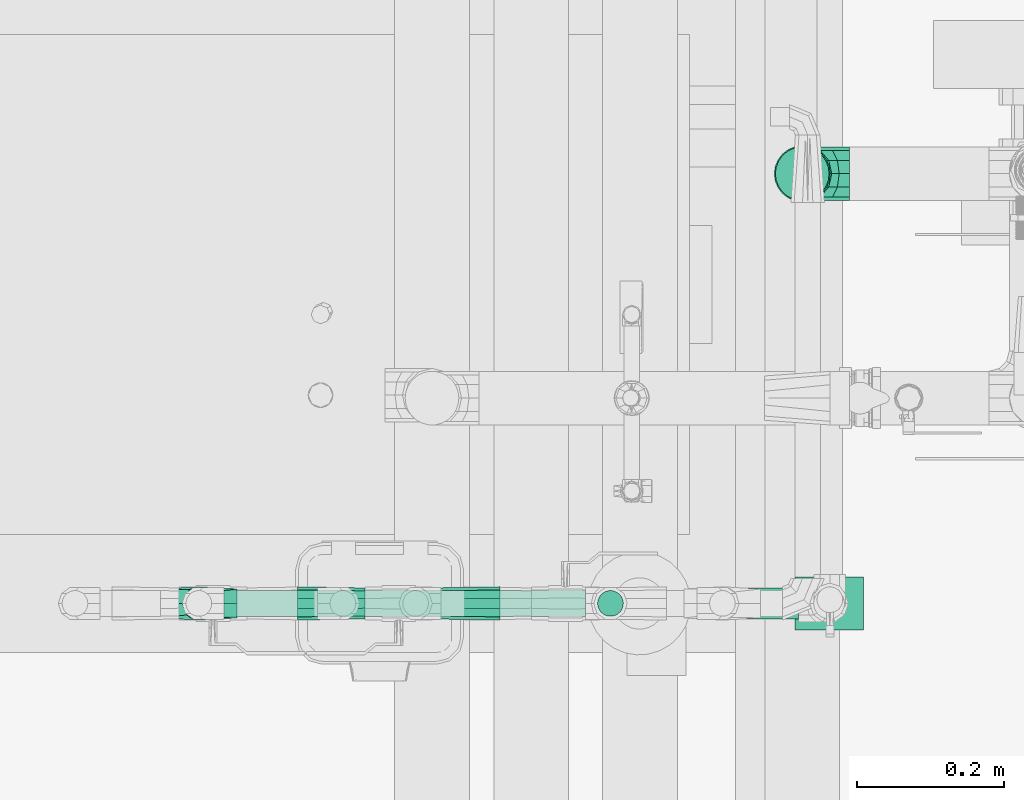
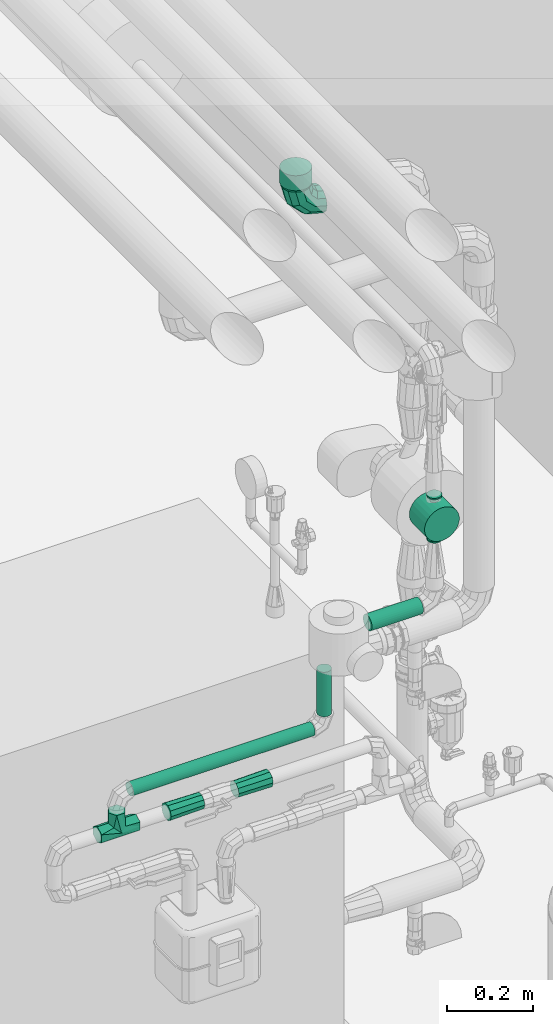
# One storey, part 18 of 43: 5 flow fittings, 4 flow segments, 1 flow controller.
"""IFC2X3 building model written with IfcOpenShell, lengths in millimetres."""

import ifcopenshell
import ifcopenshell.guid

model = None  # the IFC model being written
_history = None  # IfcOwnerHistory: only IFC2X3 demands one
_inside = {}  # id of a spatial element -> (the spatial element, [elements in it])
_under = {}  # id of a project, library or spatial element -> (it, [spatial elements below it])
_declared = {}  # id of a project -> (the project, [libraries it declares])
_typed = {}  # id of a type object -> (the type object, [elements of that type])
_made_of = {}  # id of a material, layer set ... -> (it, [elements and type objects made of it])


def new_model(schema):
    """Start an empty IFC model of exactly this schema.

    Asked for "IFC4X3", IfcOpenShell would pick the latest addendum, in which some entities
    have other attributes; the version numbers below select the first issue.
    IFC2X3 requires an IfcOwnerHistory on every rooted entity: one is made here for all.
    """
    global model, _history
    if schema == "IFC4X3":
        model = ifcopenshell.file(schema_version=(4, 3, 0, 0))
    else:
        model = ifcopenshell.file(schema=schema)
    _inside.clear()
    _under.clear()
    _declared.clear()
    _typed.clear()
    _made_of.clear()
    _history = None
    if model.schema == "IFC2X3":
        org = make("IfcOrganization", Name="unknown")
        user = make(
            "IfcPersonAndOrganization",
            ThePerson=make("IfcPerson", FamilyName="unknown"),
            TheOrganization=org,
        )
        app = make(
            "IfcApplication",
            ApplicationDeveloper=org,
            Version="unknown",
            ApplicationFullName="unknown",
            ApplicationIdentifier="unknown",
        )
        _history = make(
            "IfcOwnerHistory",
            OwningUser=user,
            OwningApplication=app,
            ChangeAction="ADDED",
            CreationDate=0,
        )
    return model


def make(cls, **values):
    """One entity of the class cls with the attributes given. An attribute that is None is left unset."""
    return model.create_entity(
        cls, **{name: value for name, value in values.items() if value is not None}
    )


def entity(cls, *values):
    """Any entity or typed value of the class cls, its attributes in the order of the schema. None: left unset."""
    e = model.create_entity(cls)
    for i, value in enumerate(values):
        if value is not None:
            e[i] = value
    return e


def rooted(cls, **values):
    """An entity with a GlobalId (a new one), such as an element, a storey or a relation."""
    return make(cls, GlobalId=ifcopenshell.guid.new(), OwnerHistory=_history, **values)


def si_unit(unit_type, name, prefix=None):
    """IfcSIUnit, for example si_unit("LENGTHUNIT", "METRE", prefix="MILLI")."""
    return make("IfcSIUnit", UnitType=unit_type, Prefix=prefix, Name=name)


def converted_unit(unit_type, name, factor, base, dimensions=None, offset=None):
    """IfcConversionBasedUnit, such as the inch: factor (a typed value) times the base unit."""
    return make(
        "IfcConversionBasedUnit"
        if offset is None
        else "IfcConversionBasedUnitWithOffset",
        ConversionOffset=offset,
        Dimensions=None
        if dimensions is None
        else entity("IfcDimensionalExponents", *dimensions),
        UnitType=unit_type,
        Name=name,
        ConversionFactor=make(
            "IfcMeasureWithUnit", ValueComponent=factor, UnitComponent=base
        ),
    )


def derived_unit(unit_type, elements):
    """IfcDerivedUnit: a product of units, each with its exponent."""
    return make(
        "IfcDerivedUnit",
        Elements=[
            make("IfcDerivedUnitElement", Unit=unit, Exponent=power)
            for unit, power in elements
        ],
        UnitType=unit_type,
    )


def assignment(units):
    """IfcUnitAssignment: the units of a project."""
    return None if units is None else make("IfcUnitAssignment", Units=units)


def point(xyz):
    """IfcCartesianPoint."""
    return None if xyz is None else make("IfcCartesianPoint", Coordinates=xyz)


def direction(xyz):
    """IfcDirection."""
    return None if xyz is None else make("IfcDirection", DirectionRatios=xyz)


def frame(location, z_axis=None, x_axis=None):
    """IfcAxis2Placement3D, a coordinate frame: its origin and axes. An axis left out is left unset."""
    return make(
        "IfcAxis2Placement3D",
        Location=point(location),
        Axis=direction(z_axis),
        RefDirection=direction(x_axis),
    )


def frame_2d(location, x_axis=None):
    """IfcAxis2Placement2D, a coordinate frame in the plane: its origin and x axis."""
    return make(
        "IfcAxis2Placement2D", Location=point(location), RefDirection=direction(x_axis)
    )


def origin():
    """The frame at (0, 0, 0) with its axes left unset."""
    return frame((0.0, 0.0, 0.0))


def origin_2d_with_axis():
    """The frame at (0, 0) in the plane with the x axis (1, 0) written out."""
    return frame_2d((0.0, 0.0), x_axis=(1.0, 0.0))


def place(relative_to, where):
    """IfcLocalPlacement: puts the frame where relative to a parent placement (None: the world)."""
    return make(
        "IfcLocalPlacement", PlacementRelTo=relative_to, RelativePlacement=where
    )


def context(
    kind, dimensions, precision=None, world=None, true_north=None, identifier=None
):
    """IfcGeometricRepresentationContext, for example the 3D "Model" context."""
    return make(
        "IfcGeometricRepresentationContext",
        ContextIdentifier=identifier,
        ContextType=kind,
        CoordinateSpaceDimension=dimensions,
        Precision=precision,
        WorldCoordinateSystem=world,
        TrueNorth=true_north,
    )


def subcontext(parent, identifier, kind, view, scale=None):
    """IfcGeometricRepresentationSubContext, for example "Body" below "Model"."""
    return make(
        "IfcGeometricRepresentationSubContext",
        ContextIdentifier=identifier,
        ContextType=kind,
        ParentContext=parent,
        TargetScale=scale,
        TargetView=view,
    )


def project(units=None, contexts=None):
    """IfcProject with its units and contexts."""
    return rooted(
        "IfcProject",
        Name="project",
        RepresentationContexts=contexts,
        UnitsInContext=assignment(units),
    )


def spatial(cls, under=None, at=None, **own):
    """A site, building, storey or space (cls), placed at a placement, below another one or the project."""
    s = rooted(cls, ObjectPlacement=at, **own)
    if under is not None:
        _under.setdefault(under.id(), (under, []))[1].append(s)
    return s


def profile(cls, at=None, kind="AREA", **sizes):
    """A parametric profile (cls). Its sizes go by their IFC names, for example OverallWidth=200.0."""
    return make(cls, ProfileType=kind, Position=at, **sizes)


def circle(**sizes):
    """IfcCircleProfileDef."""
    return profile("IfcCircleProfileDef", **sizes)


def hollow_circle(**sizes):
    """IfcCircleHollowProfileDef."""
    return profile("IfcCircleHollowProfileDef", **sizes)


def extrude(swept, where, along, depth):
    """IfcExtrudedAreaSolid: the profile swept, set in the frame where, extruded along a direction by depth."""
    return make(
        "IfcExtrudedAreaSolid",
        SweptArea=swept,
        Position=where,
        ExtrudedDirection=direction(along),
        Depth=depth,
    )


def faces_of(points, faces, orient=None, outer=None):
    """IfcFace entities. A face is a list of loops; a loop is a list of indices into points, from 0.

    orient and outer hold one flag for each loop. By default every Orientation is true, the
    first loop of a face is its IfcFaceOuterBound and the others are IfcFaceBound.
    """
    made = []
    for i, loops in enumerate(faces):
        bounds = []
        for j, loop in enumerate(loops):
            is_outer = j == 0 if outer is None else outer[i][j]
            bounds.append(
                make(
                    "IfcFaceOuterBound" if is_outer else "IfcFaceBound",
                    Bound=make("IfcPolyLoop", Polygon=[points[k] for k in loop]),
                    Orientation=True if orient is None else orient[i][j],
                )
            )
        made.append(make("IfcFace", Bounds=bounds))
    return made


def faceted_brep(points, faces, orient=None, outer=None, voids=None):
    """IfcFacetedBrep: a solid bounded by flat faces; with voids (closed shells), ...WithVoids."""
    shared = [point(p) for p in points]
    hull = make("IfcClosedShell", CfsFaces=faces_of(shared, faces, orient, outer))
    if voids is None:
        return make("IfcFacetedBrep", Outer=hull)
    return make(
        "IfcFacetedBrepWithVoids",
        Outer=hull,
        Voids=[
            make(cls, CfsFaces=faces_of(shared, fs, o, b)) for cls, fs, o, b in voids
        ],
    )


def shape(context_of_items, identifier, shape_type, items):
    """IfcShapeRepresentation: the items that make up one representation, for example the "Body"."""
    return make(
        "IfcShapeRepresentation",
        ContextOfItems=context_of_items,
        RepresentationIdentifier=identifier,
        RepresentationType=shape_type,
        Items=items,
    )


def source(mapping_origin, context_of_items, identifier, shape_type, items):
    """IfcRepresentationMap: a shape defined once, which mapped items show again and again."""
    return make(
        "IfcRepresentationMap",
        MappingOrigin=mapping_origin,
        MappedRepresentation=shape(context_of_items, identifier, shape_type, items),
    )


def transform(
    local_origin,
    x_axis=None,
    y_axis=None,
    z_axis=None,
    scale=None,
    scale2=None,
    scale3=None,
    uniform=True,
):
    """IfcCartesianTransformationOperator3D, or its non-uniform kind. x_axis, y_axis, z_axis: its Axis1, 2, 3."""
    if uniform:
        return make(
            "IfcCartesianTransformationOperator3D",
            Axis1=direction(x_axis),
            Axis2=direction(y_axis),
            LocalOrigin=point(local_origin),
            Scale=scale,
            Axis3=direction(z_axis),
        )
    return make(
        "IfcCartesianTransformationOperator3DnonUniform",
        Axis1=direction(x_axis),
        Axis2=direction(y_axis),
        LocalOrigin=point(local_origin),
        Scale=scale,
        Axis3=direction(z_axis),
        Scale2=scale2,
        Scale3=scale3,
    )


def mapped(mapping_source, mapping_target):
    """IfcMappedItem: shows the shape of a source again, moved by a transform."""
    return make(
        "IfcMappedItem", MappingSource=mapping_source, MappingTarget=mapping_target
    )


def material(Name=None, Category=None):
    """IfcMaterial."""
    return make("IfcMaterial", Name=Name, Category=Category)


def material_list(materials):
    """IfcMaterialList."""
    return make("IfcMaterialList", Materials=materials)


def made_of(thing, what):
    """Note that an element or type object is made of a material, layer set ...; save() writes the relation."""
    if what is not None:
        _made_of.setdefault(what.id(), (what, []))[1].append(thing)
    return thing


def type_object(cls, material=None, **own):
    """A type object (cls), such as IfcWallType, which elements share."""
    return made_of(rooted(cls, **own), material)


def type_shapes(of_type, sources):
    """Give a type object the sources (RepresentationMaps) that its elements show as mapped items."""
    of_type.RepresentationMaps = sources


def element(
    cls,
    number,
    at=None,
    inside=None,
    cuts=None,
    type_object=None,
    material=None,
    context=None,
    identifier="Body",
    shape_type=None,
    held_by="IfcProductDefinitionShape",
    body=None,
    shapes=None,
    **own,
):
    """One element of the class cls, such as IfcWall. Its Tag is "e" and its number.

    at: its placement. inside: the storey or other place that contains it. cuts: it is an
    opening in that element (IfcRelVoidsElement). A single representation is given by context,
    identifier, shape_type and body (its items); several are given by shapes. held_by: the class
    of the entity that holds the representations. save() writes the other relations.
    """
    e = rooted(cls, Tag="e%d" % number, ObjectPlacement=at, **own)
    if body is not None:
        shapes = [shape(context, identifier, shape_type, body)]
    if shapes is not None:
        e.Representation = make(held_by, Representations=shapes)
    if inside is not None:
        _inside.setdefault(inside.id(), (inside, []))[1].append(e)
    if cuts is not None:
        rooted(
            "IfcRelVoidsElement", RelatingBuildingElement=cuts, RelatedOpeningElement=e
        )
    if type_object is not None:
        _typed.setdefault(type_object.id(), (type_object, []))[1].append(e)
    return made_of(e, material)


def aggregate(whole, parts):
    """IfcRelAggregates: a whole, such as a stair, and the parts it consists of."""
    return rooted("IfcRelAggregates", RelatingObject=whole, RelatedObjects=parts)


def save(model, path):
    """Write the relations noted so far, then the file.

    IfcRelAggregates (storeys below a building ...), IfcRelContainedInSpatialStructure (elements
    in a storey), IfcRelDefinesByType, IfcRelAssociatesMaterial and IfcRelDeclares: one each for
    every whole, place, type object, material and project.
    """
    for whole, parts in _under.values():
        aggregate(whole, parts)
    for where, things in _inside.values():
        rooted(
            "IfcRelContainedInSpatialStructure",
            RelatedElements=things,
            RelatingStructure=where,
        )
    for kind, things in _typed.values():
        rooted("IfcRelDefinesByType", RelatedObjects=things, RelatingType=kind)
    for what, things in _made_of.values():
        rooted("IfcRelAssociatesMaterial", RelatedObjects=things, RelatingMaterial=what)
    for by, libraries in _declared.values():
        rooted("IfcRelDeclares", RelatingContext=by, RelatedDefinitions=libraries)
    model.write(path)


model = new_model("IFC2X3")

# Units and contexts
model_context = context("Model", 3, precision=0.01, world=origin(), true_north=direction((6.123031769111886e-17, 1.0)))
body_context = subcontext(model_context, "Body", "Model", "MODEL_VIEW")
ifc_project = project(units=[si_unit("LENGTHUNIT", "METRE", prefix="MILLI"), si_unit("AREAUNIT", "SQUARE_METRE"), si_unit("VOLUMEUNIT", "CUBIC_METRE"), converted_unit("PLANEANGLEUNIT", "DEGREE", entity("IfcRatioMeasure", 0.017453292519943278), si_unit("PLANEANGLEUNIT", "RADIAN"), dimensions=[0, 0, 0, 0, 0, 0, 0]), si_unit("MASSUNIT", "GRAM", prefix="KILO"), derived_unit("MASSDENSITYUNIT", [(si_unit("MASSUNIT", "GRAM", prefix="KILO"), 1), (si_unit("LENGTHUNIT", "METRE"), -3)]), derived_unit("MOMENTOFINERTIAUNIT", [(si_unit("LENGTHUNIT", "METRE"), 4)]), si_unit("TIMEUNIT", "SECOND"), si_unit("FREQUENCYUNIT", "HERTZ"), si_unit("THERMODYNAMICTEMPERATUREUNIT", "DEGREE_CELSIUS"), derived_unit("THERMALTRANSMITTANCEUNIT", [(si_unit("MASSUNIT", "GRAM", prefix="KILO"), 1), (si_unit("THERMODYNAMICTEMPERATUREUNIT", "KELVIN"), -1), (si_unit("TIMEUNIT", "SECOND"), -3)]), derived_unit("VOLUMETRICFLOWRATEUNIT", [(si_unit("LENGTHUNIT", "METRE"), 3), (si_unit("TIMEUNIT", "SECOND"), -1)]), derived_unit("MASSFLOWRATEUNIT", [(si_unit("MASSUNIT", "GRAM", prefix="KILO"), 1), (si_unit("TIMEUNIT", "SECOND"), -1)]), derived_unit("ROTATIONALFREQUENCYUNIT", [(si_unit("TIMEUNIT", "SECOND"), -1)]), si_unit("ELECTRICCURRENTUNIT", "AMPERE"), si_unit("ELECTRICVOLTAGEUNIT", "VOLT"), si_unit("POWERUNIT", "WATT"), si_unit("FORCEUNIT", "NEWTON", prefix="KILO"), si_unit("ILLUMINANCEUNIT", "LUX"), si_unit("LUMINOUSFLUXUNIT", "LUMEN"), si_unit("LUMINOUSINTENSITYUNIT", "CANDELA"), derived_unit("USERDEFINED", [(si_unit("MASSUNIT", "GRAM", prefix="KILO"), -1), (si_unit("LENGTHUNIT", "METRE"), -2), (si_unit("TIMEUNIT", "SECOND"), 3), (si_unit("LUMINOUSFLUXUNIT", "LUMEN"), 1)]), derived_unit("SOUNDPOWERUNIT", [(si_unit("MASSUNIT", "GRAM", prefix="KILO"), 1), (si_unit("LENGTHUNIT", "METRE"), 2), (si_unit("TIMEUNIT", "SECOND"), -3)]), derived_unit("SOUNDPRESSUREUNIT", [(si_unit("MASSUNIT", "GRAM", prefix="KILO"), 1), (si_unit("LENGTHUNIT", "METRE"), -1), (si_unit("TIMEUNIT", "SECOND"), -2)]), derived_unit("LINEARVELOCITYUNIT", [(si_unit("LENGTHUNIT", "METRE"), 1), (si_unit("TIMEUNIT", "SECOND"), -1)]), si_unit("PRESSUREUNIT", "PASCAL"), derived_unit("USERDEFINED", [(si_unit("LENGTHUNIT", "METRE"), -2), (si_unit("MASSUNIT", "GRAM", prefix="KILO"), 1), (si_unit("TIMEUNIT", "SECOND"), -2)]), derived_unit("LINEARFORCEUNIT", [(si_unit("MASSUNIT", "GRAM", prefix="KILO"), 1), (si_unit("LENGTHUNIT", "METRE"), 1), (si_unit("TIMEUNIT", "SECOND"), -2), (si_unit("LENGTHUNIT", "METRE"), -1)]), derived_unit("PLANARFORCEUNIT", [(si_unit("MASSUNIT", "GRAM", prefix="KILO"), 1), (si_unit("LENGTHUNIT", "METRE"), 1), (si_unit("TIMEUNIT", "SECOND"), -2), (si_unit("LENGTHUNIT", "METRE"), -2)])], contexts=[model_context])

# Site, building, storey
site_placement = place(None, origin())
site = spatial("IfcSite", under=ifc_project, at=site_placement, Name="Default", CompositionType="ELEMENT")
building_placement = place(site_placement, origin())
building = spatial("IfcBuilding", under=site, at=building_placement, CompositionType="ELEMENT")
storey_placement = place(building_placement, frame((0.0, 0.0, 270.0)))
storey = spatial("IfcBuildingStorey", under=building, at=storey_placement, Name="Niveau 0", CompositionType="ELEMENT", Elevation=270.0)

# Flow segment
pipe_segment_type_1 = type_object("IfcPipeSegmentType", Name="Canalisation:tube acier", PredefinedType="NOTDEFINED")
flow_segment_1_placement = place(storey_placement, origin())
element("IfcFlowSegment", 1, at=flow_segment_1_placement, inside=storey, type_object=pipe_segment_type_1, Name="Canalisation:tube acier", ObjectType="Canalisation:tube acier", context=body_context, shape_type="SweptSolid", body=[
    extrude(circle(Radius=36.5125, at=origin_2d_with_axis()), frame((-2000.0, -9310.0, 2458.601734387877)), (0.0, 0.0, 1.0), 5.15198411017),
])

# Flow fittings
ifc_material_1 = material(Name="<Unnamed>")
ifc_material_list_1 = material_list([ifc_material_1, ifc_material_1])
pipe_fitting_type_1 = type_object("IfcPipeFittingType", Name="Coude - Générique:Standard", PredefinedType="NOTDEFINED", material=ifc_material_list_1)
shared_shape_1 = source(origin(), body_context, "Body", "Brep", [
    faceted_brep([(23.03555308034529, 13.749999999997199, 0.0), (18.800625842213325, 16.19503638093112, -18.250000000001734), (31.60992723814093, 64.0, -18.250000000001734), (36.50000000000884, 64.0, 0.0), (7.230589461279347, 22.874999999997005, -31.609927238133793), (18.250000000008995, 64.0, -31.609927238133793), (-8.574374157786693, 32.0, -36.50000000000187), (0.0, 64.0, -36.50000000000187), (-24.379337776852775, 41.12499999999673, -31.609927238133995), (-18.249999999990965, 64.0, -31.609927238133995), (-35.94937415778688, 47.8049636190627, -18.250000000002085), (-31.609927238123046, 64.0, -18.250000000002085), (-40.184301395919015, 50.24999999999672, 0.0), (-36.49999999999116, 64.0, 0.0), (-35.949374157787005, 47.80496361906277, 18.249999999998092), (-31.609927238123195, 64.0, 18.249999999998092), (-24.37933777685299, 41.12499999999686, 31.609927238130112), (-18.249999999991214, 64.0, 31.609927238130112), (-8.574374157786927, 32.0, 36.49999999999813), (0.0, 64.0, 36.49999999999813), (7.2305894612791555, 22.87499999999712, 31.609927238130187), (18.250000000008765, 64.0, 31.609927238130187), (18.80062584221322, 16.195036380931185, 18.24999999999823), (31.6099272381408, 64.0, 18.24999999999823), (-13.749999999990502, -23.035553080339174, 0.0), (-16.1950363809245, -18.80062584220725, -18.250000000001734), (-22.874999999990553, -7.230589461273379, -31.609927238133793), (-32.0, 8.574374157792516, -36.50000000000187), (-41.124999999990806, 24.379337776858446, -31.609927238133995), (-47.804963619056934, 35.94937415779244, -18.250000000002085), (-50.24999999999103, 40.18430139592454, 0.0), (-47.80496361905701, 35.94937415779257, 18.249999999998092), (-41.12499999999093, 24.37933777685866, 31.609927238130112), (-32.0, 8.574374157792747, 36.49999999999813), (-22.874999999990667, -7.23058946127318, 31.609927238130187), (-16.195036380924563, -18.800625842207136, 18.24999999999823), (-64.0, -36.50000000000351, 0.0), (-64.0, -31.609927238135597, -18.250000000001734), (-64.0, -18.250000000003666, -31.609927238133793), (-64.0, 0.0, -36.50000000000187), (-64.0, 18.249999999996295, -31.609927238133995), (-64.0, 31.60992723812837, -18.250000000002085), (-64.0, 36.49999999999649, 0.0), (-64.0, 31.60992723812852, 18.249999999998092), (-64.0, 18.249999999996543, 31.609927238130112), (-64.0, 0.0, 36.49999999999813), (-64.0, -18.25000000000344, 31.609927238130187), (-64.0, -31.60992723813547, 18.24999999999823)], [[[0, 1, 2, 3]], [[1, 4, 5, 2]], [[4, 6, 7, 5]], [[6, 8, 9, 7]], [[8, 10, 11, 9]], [[10, 12, 13, 11]], [[12, 14, 15, 13]], [[14, 16, 17, 15]], [[16, 18, 19, 17]], [[18, 20, 21, 19]], [[20, 22, 23, 21]], [[22, 0, 3, 23]], [[24, 25, 1, 0]], [[25, 26, 4, 1]], [[26, 27, 6, 4]], [[27, 28, 8, 6]], [[28, 29, 10, 8]], [[29, 30, 12, 10]], [[30, 31, 14, 12]], [[31, 32, 16, 14]], [[32, 33, 18, 16]], [[33, 34, 20, 18]], [[34, 35, 22, 20]], [[35, 24, 0, 22]], [[36, 37, 25, 24]], [[37, 38, 26, 25]], [[38, 39, 27, 26]], [[39, 40, 28, 27]], [[40, 41, 29, 28]], [[41, 42, 30, 29]], [[42, 43, 31, 30]], [[43, 44, 32, 31]], [[44, 45, 33, 32]], [[45, 46, 34, 33]], [[46, 47, 35, 34]], [[47, 36, 24, 35]], [[3, 2, 5, 7, 9, 11, 13, 15, 17, 19, 21, 23]], [[47, 46, 45, 44, 43, 42, 41, 40, 39, 38, 37, 36]]]),
])
type_shapes(pipe_fitting_type_1, [shared_shape_1])
flow_fitting_1_placement = place(storey_placement, frame((-2000.0, -9310.0, 2394.601734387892), z_axis=(0.0, -1.0, 0.0), x_axis=(0.0, 0.0, -1.0)))
element("IfcFlowFitting", 2, at=flow_fitting_1_placement, inside=storey, type_object=pipe_fitting_type_1, material=ifc_material_1, Name="Coude - Générique:Standard", ObjectType="Coude - Générique:Standard", context=body_context, shape_type="MappedRepresentation", body=[
    mapped(shared_shape_1, transform((0.0, 0.0, 0.0), scale=1.0)),
])
pipe_fitting_type_2 = type_object("IfcPipeFittingType", Name="Piquage Acier Noir droit:Longueur = 25", PredefinedType="NOTDEFINED", material=ifc_material_1)
shared_shape_2 = source(origin(), body_context, "Body", "Brep", [
    faceted_brep([(-17.85256265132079, -26.90541302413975, -26.905413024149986), (-17.852562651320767, -32.9522666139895, -19.02500000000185), (-17.852562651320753, -36.753477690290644, -9.848064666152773), (-17.85256265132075, -38.0499999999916, 0.0), (-17.852562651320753, -36.75347769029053, 9.848064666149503), (-17.852562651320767, -32.95226661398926, 19.02499999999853), (-17.85256265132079, -26.905413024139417, 26.905413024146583), (-17.852562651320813, -19.02499999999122, 32.952266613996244), (-17.852562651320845, -9.848064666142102, 36.75347769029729), (-17.852562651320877, 0.0, 38.04999999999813), (-17.852562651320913, 9.848064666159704, 36.753477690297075), (-17.85256265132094, 19.025000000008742, 32.952266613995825), (-17.85256265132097, 26.90541302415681, 26.905413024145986), (-17.85256265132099, 32.95226661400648, 19.0249999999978), (-17.852562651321, 36.75347769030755, 9.84806466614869), (-17.852562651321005, 38.0500000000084, 0.0), (-17.852562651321, 36.75347769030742, -9.848064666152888), (-17.85256265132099, 32.95226661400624, -19.025000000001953), (-17.85256265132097, 26.905413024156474, -26.905413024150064), (-17.85256265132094, 19.025000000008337, -32.952266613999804), (-17.852562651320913, 9.848064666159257, -36.75347769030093), (-17.852562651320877, 0.0, -38.05000000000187), (-17.852562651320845, -9.848064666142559, -36.753477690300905), (-17.852562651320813, -19.024999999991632, -32.95226661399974), (0.0, 38.05000000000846, 0.0), (0.0, 36.753477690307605, 9.84806466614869), (25.0, 36.75347769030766, 9.84806466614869), (25.0, 38.05000000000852, 0.0), (0.0, 32.95226661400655, 19.0249999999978), (25.0, 32.9522666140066, 19.0249999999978), (0.0, 19.025000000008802, 32.952266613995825), (25.0, 19.025000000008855, 32.952266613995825), (25.0, 26.905413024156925, 26.905413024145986), (0.0, 26.905413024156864, 26.905413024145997), (0.0, 9.848064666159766, 36.753477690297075), (25.0, 9.84806466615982, 36.753477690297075), (0.0, 0.0, 38.04999999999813), (25.0, 0.0, 38.04999999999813), (0.0, -9.84806466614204, 36.75347769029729), (0.0, -19.024999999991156, 32.952266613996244), (25.0, -19.024999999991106, 32.952266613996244), (25.0, -9.848064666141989, 36.75347769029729), (0.0, -26.905413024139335, 26.905413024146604), (25.0, -26.905413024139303, 26.905413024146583), (0.0, -36.75347769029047, 9.848064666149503), (25.0, -36.75347769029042, 9.848064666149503), (25.0, -32.952266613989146, 19.02499999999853), (0.0, -32.9522666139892, 19.02499999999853), (0.0, -38.04999999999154, 0.0), (25.0, -38.049999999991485, 0.0), (0.0, -36.75347769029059, -9.84806466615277), (25.0, -36.75347769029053, -9.848064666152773), (0.0, -32.952266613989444, -19.025000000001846), (25.0, -32.95226661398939, -19.02500000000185), (0.0, -19.024999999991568, -32.95226661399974), (25.0, -19.02499999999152, -32.95226661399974), (25.0, -26.905413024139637, -26.905413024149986), (0.0, -26.905413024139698, -26.90541302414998), (0.0, -9.848064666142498, -36.753477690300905), (25.0, -9.848064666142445, -36.753477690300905), (0.0, 0.0, -38.05000000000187), (25.0, 0.0, -38.05000000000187), (0.0, 9.848064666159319, -36.75347769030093), (0.0, 19.025000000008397, -32.952266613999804), (25.0, 19.02500000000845, -32.952266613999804), (25.0, 9.84806466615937, -36.75347769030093), (0.0, 26.905413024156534, -26.905413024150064), (25.0, 26.905413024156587, -26.905413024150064), (0.0, 36.75347769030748, -9.848064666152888), (25.0, 36.753477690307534, -9.848064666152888), (25.0, 32.95226661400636, -19.025000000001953), (0.0, 32.952266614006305, -19.025000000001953)], [[[0, 1, 2, 3, 4, 5, 6, 7, 8, 9, 10, 11, 12, 13, 14, 15, 16, 17, 18, 19, 20, 21, 22, 23]], [[24, 15, 14, 25, 26, 27]], [[25, 14, 13, 28, 29, 26]], [[30, 31, 32, 33, 12, 11]], [[13, 12, 33, 32, 29, 28]], [[34, 35, 31, 30, 11, 10]], [[9, 36, 37, 35, 34, 10]], [[38, 8, 7, 39, 40, 41]], [[39, 7, 6, 42, 43, 40]], [[44, 45, 46, 47, 5, 4]], [[6, 5, 47, 46, 43, 42]], [[48, 49, 45, 44, 4, 3]], [[38, 41, 37, 36, 9, 8]], [[48, 3, 2, 50, 51, 49]], [[50, 2, 1, 52, 53, 51]], [[54, 55, 56, 57, 0, 23]], [[1, 0, 57, 56, 53, 52]], [[58, 59, 55, 54, 23, 22]], [[21, 60, 61, 59, 58, 22]], [[62, 20, 19, 63, 64, 65]], [[63, 19, 18, 66, 67, 64]], [[68, 69, 70, 71, 17, 16]], [[18, 17, 71, 70, 67, 66]], [[24, 27, 69, 68, 16, 15]], [[62, 65, 61, 60, 21, 20]], [[59, 61, 65, 64, 67, 70, 69, 27, 26, 29, 32, 31, 35, 37, 41, 40, 43, 46, 45, 49, 51, 53, 56, 55]]]),
])
type_shapes(pipe_fitting_type_2, [shared_shape_2])
flow_fitting_2_placement = place(storey_placement, frame((-2000.0, -9310.0, 2488.75371849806), z_axis=(0.0, -1.0, 0.0), x_axis=(0.0, 0.0, -1.0)))
element("IfcFlowFitting", 3, at=flow_fitting_2_placement, inside=storey, type_object=pipe_fitting_type_2, material=ifc_material_1, Name="Piquage Acier Noir droit:Longueur = 25", ObjectType="Piquage Acier Noir droit:Longueur = 25", context=body_context, shape_type="MappedRepresentation", body=[
    mapped(shared_shape_2, transform((0.0, 0.0, 0.0), scale=1.0)),
])

# Flow segments
pipe_segment_type_2 = type_object("IfcPipeSegmentType", Name="Canalisation:tuyau cuivre", PredefinedType="NOTDEFINED")
flow_segment_2_placement = place(storey_placement, origin())
element("IfcFlowSegment", 4, at=flow_segment_2_placement, inside=storey, type_object=pipe_segment_type_2, Name="Canalisation:tuyau cuivre", ObjectType="Canalisation:tuyau cuivre", context=body_context, shape_type="SweptSolid", body=[
    extrude(circle(Radius=21.0, at=frame_2d((2.626955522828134e-42, 2.707167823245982e-13), x_axis=(1.0, 0.0))), frame((-2143.4875000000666, -9894.089173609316, 1610.479787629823), z_axis=(1.0, 0.0, 0.0), x_axis=(0.0, 1.0, 0.0)), (0.0, 0.0, 1.0), 138.64828124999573),
])
flow_segment_3_placement = place(storey_placement, origin())
element("IfcFlowSegment", 5, at=flow_segment_3_placement, inside=storey, type_object=pipe_segment_type_2, Name="Canalisation:tuyau cuivre", ObjectType="Canalisation:tuyau cuivre", context=body_context, shape_type="SweptSolid", body=[
    extrude(circle(Radius=17.5, at=origin_2d_with_axis()), frame((-2785.9681597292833, -9894.089173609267, 1360.5000000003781), z_axis=(1.0, 0.0, 0.0), x_axis=(0.0, -1.0, 0.0)), (0.0, 0.0, 1.0), 491.0764289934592),
])
flow_segment_4_placement = place(storey_placement, origin())
element("IfcFlowSegment", 6, at=flow_segment_4_placement, inside=storey, type_object=pipe_segment_type_2, Name="Canalisation:tuyau cuivre", ObjectType="Canalisation:tuyau cuivre", context=body_context, shape_type="SweptSolid", body=[
    extrude(circle(Radius=17.5, at=origin_2d_with_axis()), frame((-2260.6800119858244, -9894.089173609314, 1394.7117187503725), z_axis=(0.0, 0.0, 1.0), x_axis=(-1.0, 0.0, 0.0)), (0.0, 0.0, 1.0), 126.89768763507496),
])

# Flow fittings
pipe_fitting_type_3 = type_object("IfcPipeFittingType", Name="Transformation - Générique:Standard", PredefinedType="NOTDEFINED", material=ifc_material_1)
shared_shape_3 = source(origin(), body_context, "Body", "Brep", [
    faceted_brep([(91.44531250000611, 17.057301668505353, -12.39285507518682), (91.44531250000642, 19.070643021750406, -6.196427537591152), (91.44531250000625, 21.083984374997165, 0.0), (91.44531250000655, 19.07064302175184, 6.196427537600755), (91.44531250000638, 17.05730166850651, 12.392855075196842), (91.4453125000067, 11.786305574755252, 16.222457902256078), (91.44531250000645, 6.515309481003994, 20.052060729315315), (91.44531250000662, 0.0, 20.052060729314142), (91.44531250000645, -6.51530948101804, 20.052060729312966), (91.44531250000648, -11.786305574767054, 16.222457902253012), (91.44531250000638, -17.057301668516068, 12.392855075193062), (91.44531250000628, -19.070643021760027, 6.196427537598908), (91.44531250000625, -21.083984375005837, 0.0), (91.44531250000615, -19.070643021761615, -6.196427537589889), (91.44531250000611, -17.057301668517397, -12.392855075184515), (91.44531250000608, -11.786305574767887, -16.22245790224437), (91.44531250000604, -6.515309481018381, -20.05206072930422), (91.44531250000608, 0.0, -20.052060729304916), (91.44531250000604, 6.5153094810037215, -20.052060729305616), (91.44531250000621, 11.78630557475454, -16.222457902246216), (0.0, 22.708984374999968, 0.0), (0.0, 20.556774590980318, -6.623820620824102), (0.0, 18.371954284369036, -13.348006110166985), (0.0, 12.694708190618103, -17.47276683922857), (0.0, 7.017462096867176, -21.59752756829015), (0.0, 0.0, -21.597527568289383), (0.0, -7.017462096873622, -21.59752756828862), (0.0, -12.694708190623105, -17.47276683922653), (0.0, -18.37195428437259, -13.348006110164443), (0.0, -20.556774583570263, -6.623820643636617), (0.0, -22.708984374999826, 0.0), (0.0, -20.556774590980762, 6.623820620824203), (0.0, -18.371954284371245, 13.348006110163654), (0.0, -12.694708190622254, 17.47276683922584), (0.0, -7.017462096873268, 21.597527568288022), (0.0, 0.0, 21.597527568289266), (0.0, 7.017462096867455, 21.597527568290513), (0.0, 12.694708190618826, 17.472766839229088), (0.0, 18.371954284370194, 13.348006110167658), (0.0, 20.556774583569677, 6.623820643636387)], [[[0, 1, 2, 3, 4, 5, 6, 7, 8, 9, 10, 11, 12, 13, 14, 15, 16, 17, 18, 19]], [[20, 21, 22, 23, 24, 25, 26, 27, 28, 29, 30, 31, 32, 33, 34, 35, 36, 37, 38, 39]], [[22, 21, 20, 2, 1, 0]], [[28, 14, 13, 12, 30, 29]], [[0, 19, 18, 24, 23, 22]], [[26, 25, 24, 18, 17, 16]], [[16, 15, 14, 28, 27, 26]], [[32, 31, 30, 12, 11, 10]], [[38, 4, 3, 2, 20, 39]], [[10, 9, 8, 34, 33, 32]], [[36, 35, 34, 8, 7, 6]], [[6, 5, 4, 38, 37, 36]]]),
])
type_shapes(pipe_fitting_type_3, [shared_shape_3])
flow_fitting_3_placement = place(storey_placement, frame((-2686.0271441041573, -9894.089173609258, 1260.5000000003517)))
element("IfcFlowFitting", 7, at=flow_fitting_3_placement, inside=storey, type_object=pipe_fitting_type_3, material=ifc_material_1, Name="Transformation - Générique:Standard", ObjectType="Transformation - Générique:Standard", context=body_context, shape_type="MappedRepresentation", body=[
    mapped(shared_shape_3, transform((0.0, 0.0, 0.0), scale=1.0)),
])
flow_fitting_4_placement = place(storey_placement, frame((-2411.0615191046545, -9894.089173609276, 1260.5000000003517), z_axis=(0.0, 0.0, 1.0), x_axis=(-1.0, 0.0, 0.0)))
element("IfcFlowFitting", 8, at=flow_fitting_4_placement, inside=storey, type_object=pipe_fitting_type_3, material=ifc_material_1, Name="Transformation - Générique:Standard", ObjectType="Transformation - Générique:Standard", context=body_context, shape_type="MappedRepresentation", body=[
    mapped(shared_shape_3, transform((0.0, 0.0, 0.0), scale=1.0)),
])
pipe_fitting_type_4 = type_object("IfcPipeFittingType", Name="Té - Générique:Standard", PredefinedType="NOTDEFINED", material=ifc_material_1)
shared_shape_4 = source(origin(), body_context, "Body", "Brep", [
    faceted_brep([(-52.035937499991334, -22.70898437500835, 0.0), (-52.03593749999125, -19.870361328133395, 4.916639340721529), (-52.03593749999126, -17.031738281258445, 9.833278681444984), (-52.03593749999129, -11.35449218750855, 19.666557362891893), (-52.035937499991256, 0.0, 19.666557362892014), (-52.03593749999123, 11.354492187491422, 19.666557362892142), (-52.035937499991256, 17.031738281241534, 9.833278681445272), (-52.035937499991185, 22.708984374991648, 0.0), (-52.035937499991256, 17.03173828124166, -9.833278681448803), (-52.03593749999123, 11.35449218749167, -19.666557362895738), (-52.035937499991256, 0.0, -19.666557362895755), (-52.03593749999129, -11.354492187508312, -19.666557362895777), (-52.035937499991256, -17.031738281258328, -9.833278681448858), (52.03593750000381, -19.870361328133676, -4.916639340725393), (52.035937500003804, -17.031738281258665, -9.833278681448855), (52.03593750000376, -11.354492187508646, -19.666557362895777), (52.0359375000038, 0.0, -19.666557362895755), (52.03593750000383, 11.354492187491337, -19.666557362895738), (52.0359375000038, 18.37505250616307, -7.506590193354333), (52.035937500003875, 22.708984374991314, 0.0), (52.0359375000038, 17.031738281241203, 9.833278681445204), (52.03593750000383, 11.354492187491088, 19.666557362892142), (52.0359375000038, 0.0, 19.666557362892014), (52.03593750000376, -11.354492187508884, 19.666557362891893), (52.035937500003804, -17.031738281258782, 9.833278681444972), (52.03593750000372, -22.708984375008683, 0.0), (19.593842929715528, -19.593842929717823, 7.812655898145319), (16.47870148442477, -16.47870148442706, 15.625311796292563), (0.0, 0.0, 22.708984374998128), (-18.640273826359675, -18.640273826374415, 7.666504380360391), (-17.718472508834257, -17.718472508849, 9.403416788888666), (-12.727960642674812, -12.727960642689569, 18.806833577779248), (22.708984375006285, -22.70898437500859, 0.0), (-22.70898437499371, -22.70898437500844, 0.0), (18.640274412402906, -18.640274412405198, -7.666503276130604), (17.71847250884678, -17.718472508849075, -9.403416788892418), (12.727960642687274, -12.72796064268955, -18.80683357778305), (-19.593842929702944, -19.59384292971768, -7.812655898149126), (0.0, 0.0, -22.70898437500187), (-16.47870148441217, -16.478701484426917, -15.625311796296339), (-17.03173828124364, -52.03593750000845, -9.833278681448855), (-11.354492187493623, -52.03593750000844, -19.666557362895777), (0.0, -52.035937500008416, -19.666557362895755), (11.354492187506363, -52.03593750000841, -19.666557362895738), (18.375052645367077, -52.03593750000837, -7.506589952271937), (22.708984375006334, -52.03593750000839, 0.0), (17.031738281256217, -52.03593750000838, 9.833278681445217), (11.35449218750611, -52.03593750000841, 19.666557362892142), (0.0, -52.035937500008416, 19.666557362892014), (-11.354492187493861, -52.03593750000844, 19.666557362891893), (-18.375052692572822, -52.03593750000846, 7.506589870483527), (-22.708984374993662, -52.03593750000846, 0.0)], [[[0, 1, 2, 3, 4, 5, 6, 7, 8, 9, 10, 11, 12]], [[13, 14, 15, 16, 17, 18, 19, 20, 21, 22, 23, 24, 25]], [[26, 25, 24]], [[27, 24, 23]], [[28, 23, 22, 21]], [[2, 29, 30, 31]], [[2, 31, 3]], [[25, 26, 32]], [[0, 33, 1]], [[24, 27, 26]], [[23, 28, 27]], [[7, 6, 5, 21, 20, 19]], [[33, 29, 1]], [[31, 4, 3]], [[31, 28, 4]], [[5, 28, 21]], [[29, 2, 1]], [[28, 5, 4]], [[9, 8, 7, 19, 18, 17]], [[14, 34, 35, 36]], [[0, 37, 33]], [[9, 17, 38]], [[12, 39, 37]], [[10, 9, 38, 11]], [[34, 14, 13]], [[16, 15, 36]], [[32, 13, 25]], [[36, 15, 14]], [[39, 11, 38]], [[32, 34, 13]], [[12, 37, 0]], [[38, 17, 16]], [[39, 12, 11]], [[36, 38, 16]], [[40, 41, 42, 43, 44, 45, 46, 47, 48, 49, 50, 51]], [[30, 49, 31]], [[33, 51, 50]], [[50, 30, 29, 33]], [[31, 49, 48]], [[27, 47, 46]], [[32, 46, 45]], [[49, 30, 50]], [[31, 48, 28]], [[46, 32, 26, 27]], [[28, 48, 47]], [[28, 47, 27]], [[35, 43, 36]], [[38, 41, 39]], [[43, 35, 44]], [[44, 35, 34, 32]], [[36, 43, 42]], [[33, 40, 51]], [[32, 45, 44]], [[39, 41, 40]], [[36, 42, 38]], [[40, 33, 37, 39]], [[38, 42, 41]]]),
])
type_shapes(pipe_fitting_type_4, [shared_shape_4])
flow_fitting_5_placement = place(storey_placement, frame((-2820.1798784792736, -9894.089173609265, 1260.500000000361), z_axis=(0.0, -1.0, 0.0), x_axis=(-1.0, 0.0, 0.0)))
element("IfcFlowFitting", 9, at=flow_fitting_5_placement, inside=storey, type_object=pipe_fitting_type_4, material=ifc_material_1, Name="Té - Générique:Standard", ObjectType="Té - Générique:Standard", context=body_context, shape_type="MappedRepresentation", body=[
    mapped(shared_shape_4, transform((0.0, 0.0, 0.0), scale=1.0)),
])

# Flow controller
ifc_material_2 = material(Name="Métal")
ifc_material_list_2 = material_list([ifc_material_2, ifc_material_2, ifc_material_2, ifc_material_2])
ifc_material_list_3 = material_list([ifc_material_2, ifc_material_2, ifc_material_2, ifc_material_2])
valve_type = type_object("IfcValveType", Name="Gaz naturel - Filtre gaz:DN 20", PredefinedType="NOTDEFINED", material=ifc_material_list_3)
shared_shape_5 = source(origin(), body_context, "Body", "SweptSolid", [
    extrude(hollow_circle(Radius=18.0, WallThickness=8.0, at=frame_2d((-7.59578949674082e-16, -3.383959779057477e-14), x_axis=(1.0, 0.0))), frame((60.0, 0.0, -227.0), z_axis=(1.0, 0.0, 0.0), x_axis=(0.0, 1.0, 0.0)), (0.0, 0.0, 1.0), 3.9999999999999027),
    extrude(hollow_circle(Radius=18.0, WallThickness=8.0, at=frame_2d((7.416313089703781e-16, -3.383959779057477e-14), x_axis=(1.0, 0.0))), frame((-64.0, 0.0, -227.0), z_axis=(1.0, 0.0, 0.0), x_axis=(0.0, 1.0, 0.0)), (0.0, 0.0, 1.0), 3.9999999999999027),
    extrude(circle(Radius=10.0, at=frame_2d((-1.0287669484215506e-15, -3.383959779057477e-14), x_axis=(1.0, 0.0))), frame((-64.0, 0.0, -227.0), z_axis=(1.0, 0.0, 0.0), x_axis=(0.0, 1.0, 0.0)), (0.0, 0.0, 1.0), 127.99999999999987),
    extrude(circle(Radius=47.0, at=frame_2d((0.0, -7.593059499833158e-14), x_axis=(1.0, 0.0))), frame((0.0, 0.0, -263.0)), (0.0, 0.0, 1.0), 71.99999999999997),
])
type_shapes(valve_type, [shared_shape_5])
flow_controller_placement = place(storey_placement, frame((-1963.4875000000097, -10121.089173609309, 1849.82628503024), z_axis=(0.0, -1.0, 0.0), x_axis=(0.0, 0.0, 1.0)))
element("IfcFlowController", 10, at=flow_controller_placement, inside=storey, type_object=valve_type, material=ifc_material_list_2, Name="Gaz naturel - Filtre gaz:DN 20", ObjectType="Gaz naturel - Filtre gaz:DN 20", context=body_context, shape_type="MappedRepresentation", body=[
    mapped(shared_shape_5, transform((0.0, 0.0, 0.0), scale=1.0)),
])

save(model, "model.ifc")
